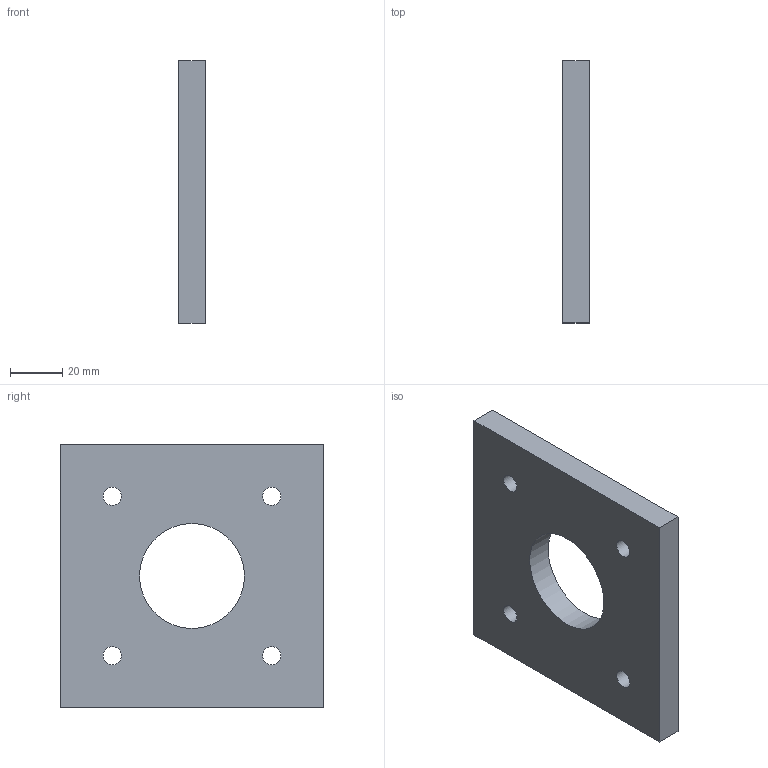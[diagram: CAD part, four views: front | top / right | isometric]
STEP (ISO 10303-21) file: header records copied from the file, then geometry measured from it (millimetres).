
FILE_DESCRIPTION(('Open CASCADE Model'),'2;1');
FILE_NAME('Open CASCADE Shape Model','2026-10-08T06:53:14',('Author'),( 'Open CASCADE'),'Open CASCADE STEP processor 7.8','Open CASCADE 7.8' ,'Unknown');
FILE_SCHEMA(('AUTOMOTIVE_DESIGN { 1 0 10303 214 1 1 1 1 }'));
Length unit declared in the file: millimetre
Products named in the file (1): Open CASCADE STEP translator 7.8 21
Bounding box: 10 x 100 x 100 mm (x, y, z)
Volume: 85894.2 mm3; surface area: 23315.1 mm2
Topology: 1 solids, 1 shells, 11 faces, 27 edges, 18 vertices
Faces by surface type: plane 6, cylinder 5
Full cylindrical faces by diameter (mm): 7 x4, 40 x1
Entity records: 742 total; most frequent: CARTESIAN_POINT 171, DIRECTION 105, LINE 61, VECTOR 61, ORIENTED_EDGE 54, PCURVE 54, DEFINITIONAL_REPRESENTATION 54, EDGE_CURVE 27
